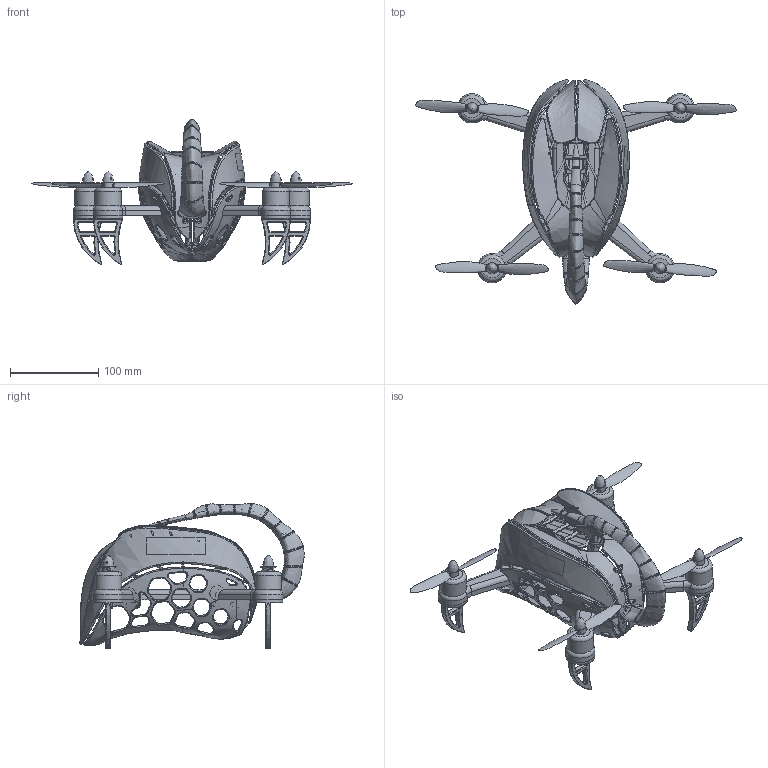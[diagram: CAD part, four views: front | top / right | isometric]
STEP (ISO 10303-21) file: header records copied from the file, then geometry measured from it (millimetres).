
FILE_DESCRIPTION(/* description */ (''),/* implementation_level */ '2;1');
FILE_NAME(/* name */ 'frame propellers.stp',/* time_stamp */ '2017-05-29T13:07:58+02:00',/* author */ (''),/* organization */ (''),/* preprocessor_version */ 'ST-DEVELOPER v16',/* originating_system */ 'SIEMENS PLM Software NX 10.0',/* authorisation */ '');
FILE_SCHEMA (('CONFIG_CONTROL_DESIGN'));
Products named in the file (1): model1
Bounding box: 362.41 x 253.53 x 164.06 mm (x, y, z)
Volume: 307115.8 mm3; surface area: 270299 mm2
Topology: 22 solids, 23 shells, 3690 faces, 9889 edges, 6065 vertices
Faces by surface type: bspline 1858, torus 658, cylinder 617, plane 416, sphere 84, extrusion 45, cone 8, revolution 4
Full cylindrical faces by diameter (mm): 2 x62, 4.789 x4, 5 x4, 12.5 x4, 30 x4, 33 x4
Entity records: 338447 total; most frequent: CARTESIAN_POINT 265284, ORIENTED_EDGE 19072, DIRECTION 9788, EDGE_CURVE 9536, B_SPLINE_CURVE_WITH_KNOTS 5966, VERTEX_POINT 5943, AXIS2_PLACEMENT_3D 4373, EDGE_LOOP 3909
